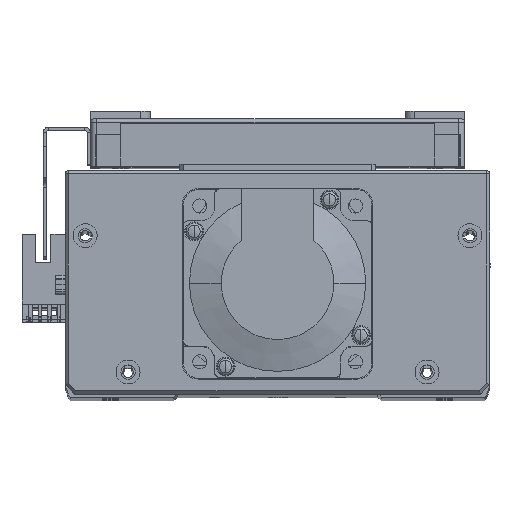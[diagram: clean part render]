
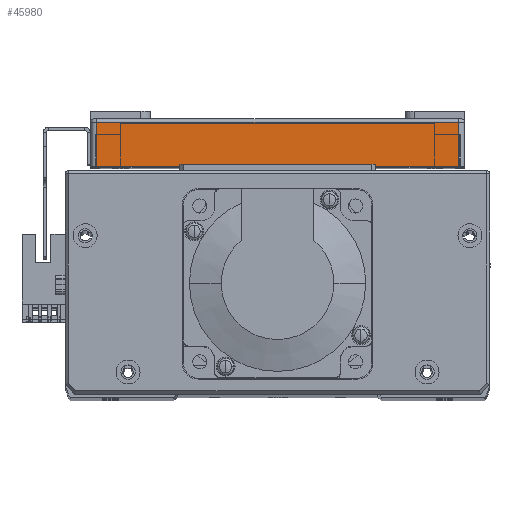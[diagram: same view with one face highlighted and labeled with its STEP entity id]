
A CAD part, top view. The second image highlights one B-rep face of the part: STEP entity #45980.
In plain terms, the highlighted planar face has unit normal (0, 0, 1) as drawn and (-1, 0, 0) by its records, which use the part's own axes.
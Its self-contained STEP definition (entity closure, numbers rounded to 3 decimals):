
#2870 = VERTEX_POINT ( 'NONE', #49682 ) ;
#2886 = VERTEX_POINT ( 'NONE', #49653 ) ;
#2951 = VERTEX_POINT ( 'NONE', #49662 ) ;
#3183 = VERTEX_POINT ( 'NONE', #49825 ) ;
#3368 = CARTESIAN_POINT ( 'NONE',  ( -95., 15., -59.5 ) ) ;
#3373 = PLANE ( 'NONE',  #5662 ) ;
#3374 = DIRECTION ( 'NONE',  ( 1., 0., 0. ) ) ;
#3390 = DIRECTION ( 'NONE',  ( 0., 0., -1. ) ) ;
#5662 = AXIS2_PLACEMENT_3D ( 'NONE', #3368, #3374, #3390 ) ;
#10208 = EDGE_CURVE ( 'NONE', #2951, #2870, #23153, .T. ) ;
#10222 = EDGE_CURVE ( 'NONE', #2886, #2951, #23135, .T. ) ;
#10229 = EDGE_CURVE ( 'NONE', #2870, #3183, #23124, .T. ) ;
#10306 = EDGE_CURVE ( 'NONE', #3183, #2886, #17469, .T. ) ;
#15966 = FACE_OUTER_BOUND ( 'NONE', #26348, .T. ) ;
#17429 = VECTOR ( 'NONE', #52348, 1000. ) ;
#17469 = LINE ( 'NONE', #52368, #17429 ) ;
#23124 = LINE ( 'NONE', #52203, #23127 ) ;
#23127 = VECTOR ( 'NONE', #52202, 1000. ) ;
#23135 = LINE ( 'NONE', #52141, #23148 ) ;
#23148 = VECTOR ( 'NONE', #52158, 1000. ) ;
#23153 = LINE ( 'NONE', #52137, #23154 ) ;
#23154 = VECTOR ( 'NONE', #52139, 1000. ) ;
#26348 = EDGE_LOOP ( 'NONE', ( #29654, #29631, #29578, #29598 ) ) ;
#29578 = ORIENTED_EDGE ( 'NONE', *, *, #10229, .T. ) ;
#29598 = ORIENTED_EDGE ( 'NONE', *, *, #10306, .T. ) ;
#29631 = ORIENTED_EDGE ( 'NONE', *, *, #10208, .T. ) ;
#29654 = ORIENTED_EDGE ( 'NONE', *, *, #10222, .T. ) ;
#45980 = ADVANCED_FACE ( 'NONE', ( #15966 ), #3373, .F. ) ;
#49653 = CARTESIAN_POINT ( 'NONE',  ( -95., 0., 57.5 ) ) ;
#49662 = CARTESIAN_POINT ( 'NONE',  ( -95., 14., 57.5 ) ) ;
#49682 = CARTESIAN_POINT ( 'NONE',  ( -95., 14., -57.5 ) ) ;
#49825 = CARTESIAN_POINT ( 'NONE',  ( -95., 0., -57.5 ) ) ;
#52137 = CARTESIAN_POINT ( 'NONE',  ( -95., 14., -57.5 ) ) ;
#52139 = DIRECTION ( 'NONE',  ( 0., 0., -1. ) ) ;
#52141 = CARTESIAN_POINT ( 'NONE',  ( -95., 15., 57.5 ) ) ;
#52158 = DIRECTION ( 'NONE',  ( 0., 1., 0. ) ) ;
#52202 = DIRECTION ( 'NONE',  ( 0., -1., 0. ) ) ;
#52203 = CARTESIAN_POINT ( 'NONE',  ( -95., 15., -57.5 ) ) ;
#52348 = DIRECTION ( 'NONE',  ( 0., 0., 1. ) ) ;
#52368 = CARTESIAN_POINT ( 'NONE',  ( -95., 0., -59.5 ) ) ;
